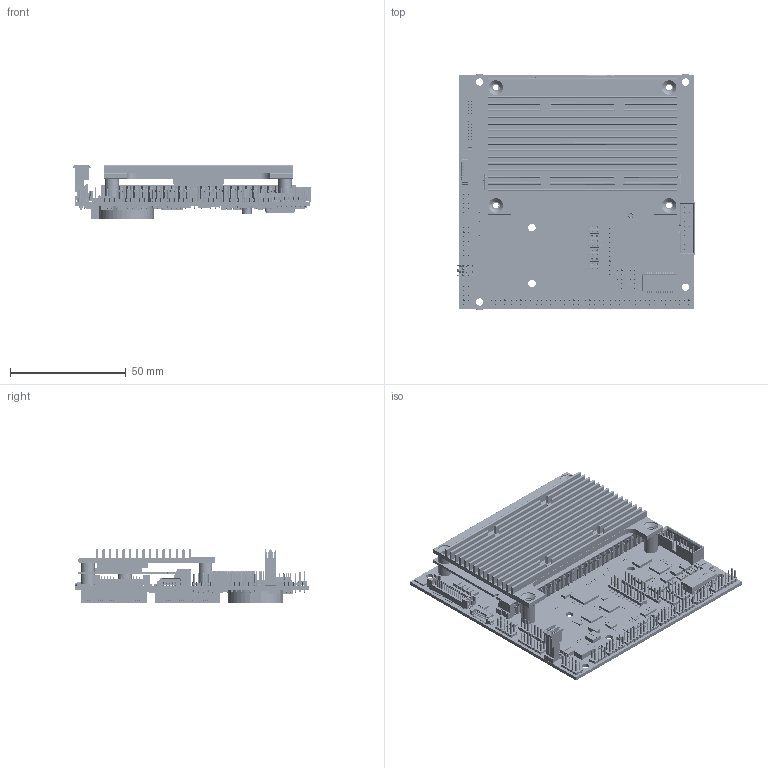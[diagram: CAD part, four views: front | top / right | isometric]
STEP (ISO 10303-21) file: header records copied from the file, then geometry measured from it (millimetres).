
FILE_DESCRIPTION((''),'2;1');
FILE_NAME('7140780-A_EAGLET-BB_ASM','2017-08-30T',('user'),(''),'PRO/ENGINEER BY PARAMETRIC TECHNOLOGY CORPORATION, 2012130','PRO/ENGINEER BY PARAMETRIC TECHNOLOGY CORPORATION, 2012130','');
FILE_SCHEMA(('CONFIG_CONTROL_DESIGN'));
Products named in the file (94): 7140780-A_EAGLET-BB; CAP1206; LED1_6SQ-HT0_7_P4; SOT_533_H_6_P5; SON_004_0185X0125_004_8P; PG-TDSON-9; TP_HOLE_D90MM; TP_SMD_CIR_30; RES2512; CAP_TANTD; VQFN_4X3-H1_P20_EP; DOIC_0230X0010_0031_8P; BATT_PANASONIC_BR_2330A; SOT_1P9_2_1P1_3P; DIO_SMB; BGA_4P_P4MM_P918MMSQ_P5; SOD323-H1_2_P2; SOP_4X5_H1_7_P8_EP; ABM3C_CRY_4L; TDK_ACM2012-900-2P-T002; PSOP95P_50X62-5P; DFN_05_2X2_8P; FUSEM_1P8X01_P75; SLP2510P8_0260X0110_8P; SON40P210X250X50-13N; LTST-C190GKT; TSSOP_65P640X120-24; CAP0805; SOT-23_3L; CAP0603; RES0402; CAP0402; DLW21SN900HQ2L; SC70-6-43M; SOP65P780X200-28N; FB0603; TSSOP_0P65_28L; QFN0P5P_4P83X4P83X1_32P; QFN50P_36P; 7140780-A_EAGLET-BB_28APR17_TOP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
Assembly tree (688 placements, depth 4):
  7140780-A_EAGLET-BB_ASM
    7140780-A_EAGLET-BB
    CAP1206  x19
    LED1_6SQ-HT0_7_P4
    SOT_533_H_6_P5  x7
    SON_004_0185X0125_004_8P  x2
    PG-TDSON-9  x2
    TP_HOLE_D90MM
    TP_SMD_CIR_30  x4
    RES2512
    CAP_TANTD  x2
    VQFN_4X3-H1_P20_EP
    DOIC_0230X0010_0031_8P  x2
    BATT_PANASONIC_BR_2330A
    SOT_1P9_2_1P1_3P
    DIO_SMB
    BGA_4P_P4MM_P918MMSQ_P5  x2
    SOD323-H1_2_P2
    SOP_4X5_H1_7_P8_EP  x2
    ABM3C_CRY_4L
    TDK_ACM2012-900-2P-T002  x7
    PSOP95P_50X62-5P  x6
    DFN_05_2X2_8P  x2
    FUSEM_1P8X01_P75  x2
    SLP2510P8_0260X0110_8P  x10
    SON40P210X250X50-13N
    LTST-C190GKT  x6
    TSSOP_65P640X120-24  x2
    CAP0805  x2
    SOT-23_3L  x2
    CAP0603  x29
    RES0402  x280
    CAP0402  x163
    DLW21SN900HQ2L  x10
    SC70-6-43M
    SOP65P780X200-28N
    FB0603  x19
    TSSOP_0P65_28L
    QFN0P5P_4P83X4P83X1_32P  x4
    QFN50P_36P
    7140780-A_EAGLET-BB_28APR17_ASM
      7140780-A_EAGLET-BB_28APR17_TOP
      7140780-A_EAGLET-BB_28APR17_BOT
      C-2174803-2-G-3D
      532610671
      DF13A-30DP-1_25V_X_8A_S_-315630_ASM
        DF13A-30DP-1_25V_X_8A_S_-315300
      1140084168-REVB_SD_CARD_CONNECT
      WUIR-19A1G4BU3N_ASM
        MSBR-20-1
        MSBR-19-1
        MSBR-18-1
        MSBR-17-1
        MSBR-16-1
        MSBR-15-1
        MSBR-14-1
        MSBR-13-1
        MSBR-12-1
        MSBR-11-1
        MSBR-10-1
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Bounding box: 103.22 x 102.31 x 23.4 mm (x, y, z)
Volume: 82151 mm3; surface area: 121034.3 mm2
Topology: 697 solids, 699 shells, 35475 faces, 96457 edges, 62881 vertices
Faces by surface type: plane 26159, cylinder 8036, cone 1159, extrusion 43, bspline 38, torus 36, sphere 4
Entity records: 896803 total; most frequent: CARTESIAN_POINT 173520, ORIENTED_EDGE 155272, DIRECTION 142581, EDGE_CURVE 77698, VECTOR 60863, LINE 60820, VERTEX_POINT 50554, AXIS2_PLACEMENT_3D 40859
